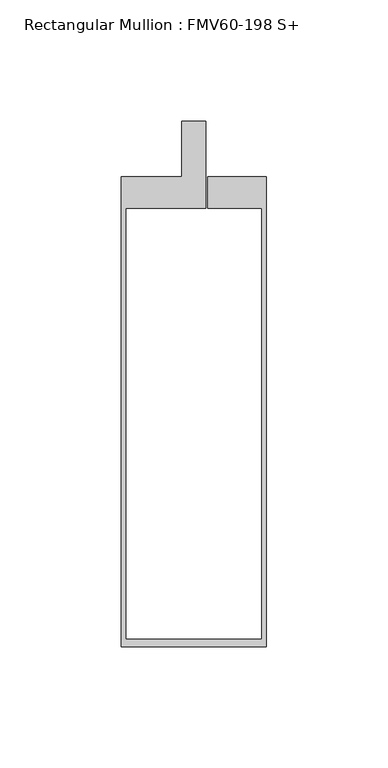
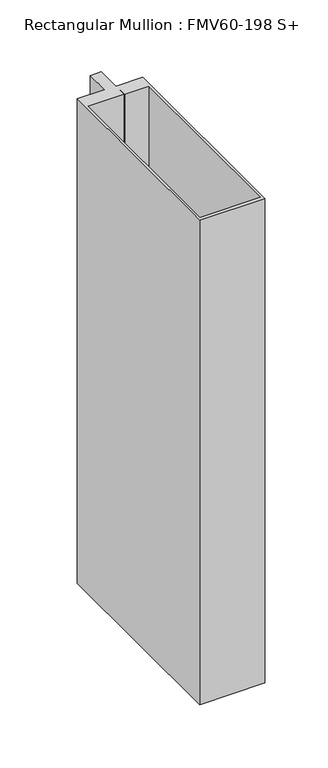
"""IFC4 building model written with IfcOpenShell, lengths in millimetres: member geometry, Rectangular Mullion : FMV60-198 S+."""

from ifc_helpers import new_model, si_unit, frame, origin, place, context, project, spatial, polyline, outline, extrude, source, transform, mapped, element, save


def rectangular_mullion_fmv60_198_s_6e11e081(model_context):
    return source(origin(), model_context, "Body", "SweptSolid", [
        extrude(outline(polyline([(-5.0, 0.1), (-5.0, 23.0768801), (5.0, 23.0768801), (5.0, -12.9034168), (-28.0157965, -12.9034168), (-28.0157965, -190.9078947), (27.9840779, -190.9078947), (27.9840779, -12.9034168), (5.8, -12.9034168), (5.8, 0.1), (29.9842035, 0.1), (29.9842035, -193.9078947), (-30.0157965, -193.9078947), (-30.0157965, 0.1), (-5.0, 0.1)])), frame((0.0, 0.0, -470.003878), z_axis=(0.0, 0.0, 1.0), x_axis=(1.0, 0.0, 0.0)), (0.0, 0.0, 1.0), 470.003878),
    ])


if __name__ == "__main__":
    model = new_model("IFC4")
    model_context = context("Model", 3, world=origin())
    ifc_project = project(units=[si_unit("LENGTHUNIT", "METRE", prefix="MILLI")], contexts=[model_context])
    site = spatial("IfcSite", under=ifc_project)
    building = spatial("IfcBuilding", under=site)
    placement = place(None, origin())
    rectangular_mullion_fmv60_198_s_shape = rectangular_mullion_fmv60_198_s_6e11e081(model_context)
    element("IfcMember", 1, ObjectType="Rectangular Mullion : FMV60-198 S+", at=placement, inside=building, context=model_context, shape_type="MappedRepresentation", body=[
        mapped(rectangular_mullion_fmv60_198_s_shape, transform((0.0, 0.0, 0.0), x_axis=(1.0, 0.0, 0.0), y_axis=(0.0, 1.0, 0.0), z_axis=(0.0, 0.0, 1.0))),
    ])
    save(model, "model.ifc")
